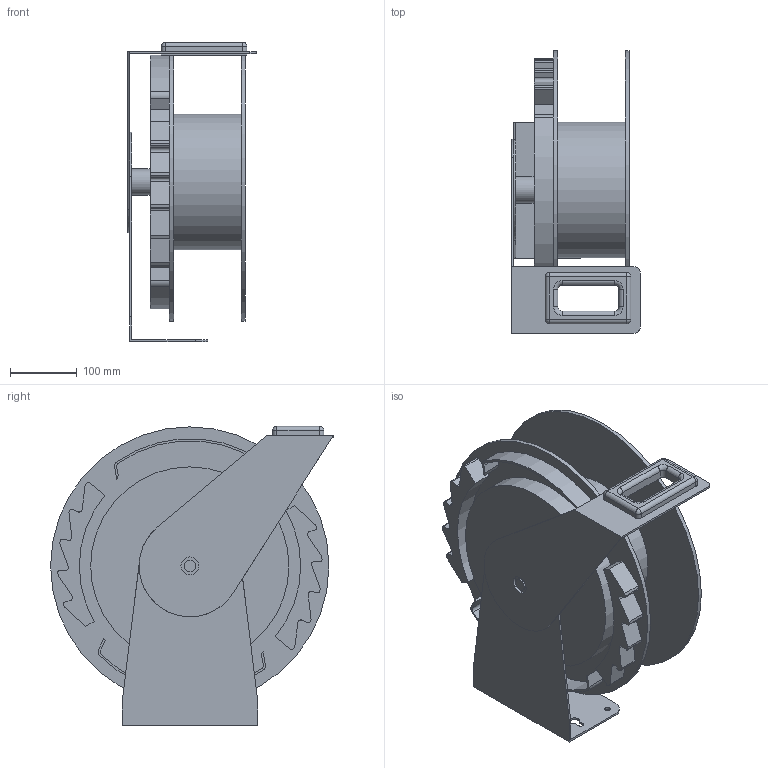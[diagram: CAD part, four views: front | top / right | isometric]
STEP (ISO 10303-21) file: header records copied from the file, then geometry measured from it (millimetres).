
FILE_DESCRIPTION( ( 'Unknown' ), '1' );
FILE_NAME( 'C:/Users/ggb/Documents/Simplified Models/RT/RT_4_INCH.stp', 'Unknown', ( 'Unknown' ), ( 'Unknown' ), 'PSStep 10.1', 'Unknown', ' ' );
FILE_SCHEMA( ( 'AUTOMOTIVE_DESIGN { 1 0 10303 214 1 1 1 1 }' ) );
Length unit declared in the file: millimetre
Products named in the file (1): 1
Bounding box: 193.01 x 424.18 x 448.71 mm (x, y, z)
Volume: 5013205.5 mm3; surface area: 988478.3 mm2
Topology: 1 solids, 1 shells, 185 faces, 481 edges, 309 vertices
Faces by surface type: plane 95, cylinder 81, torus 4, sphere 4, extrusion 1
Full cylindrical faces by diameter (mm): 8.255 x2, 17.602 x1, 26.988 x1, 39.761 x1, 50.8 x1, 191.452 x1, 203.39 x1, 297.409 x1, 417.525 x2
Entity records: 7187 total; most frequent: CARTESIAN_POINT 1061, DIRECTION 998, ORIENTED_EDGE 930, EDGE_CURVE 465, AXIS2_PLACEMENT_3D 351, VERTEX_POINT 308, VECTOR 296, LINE 295
